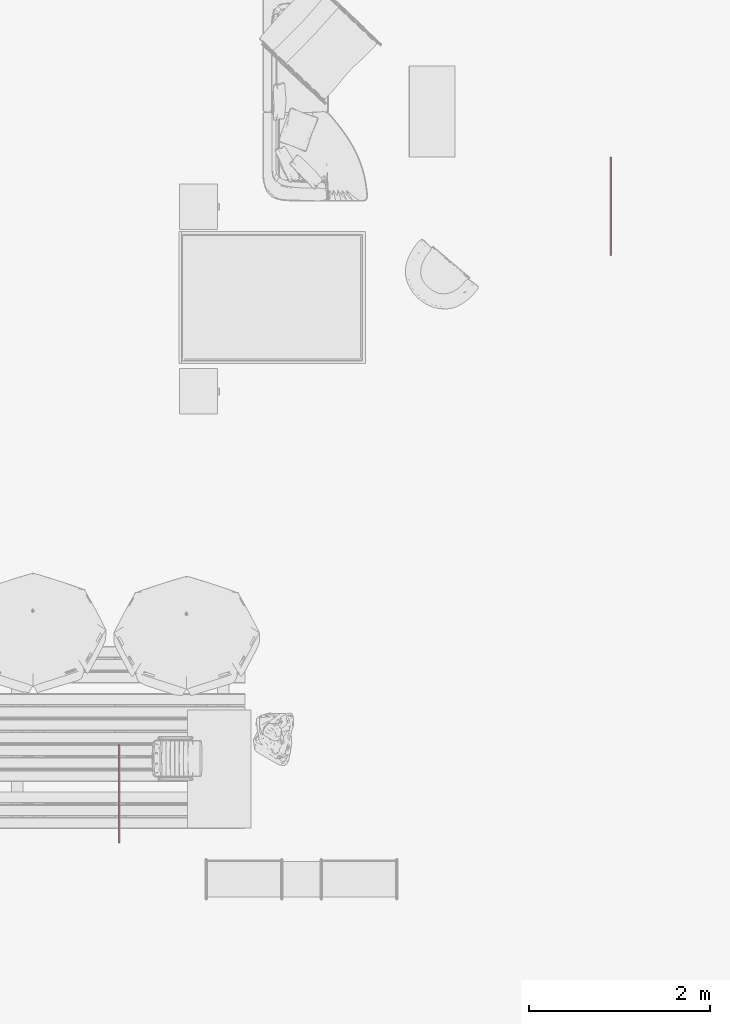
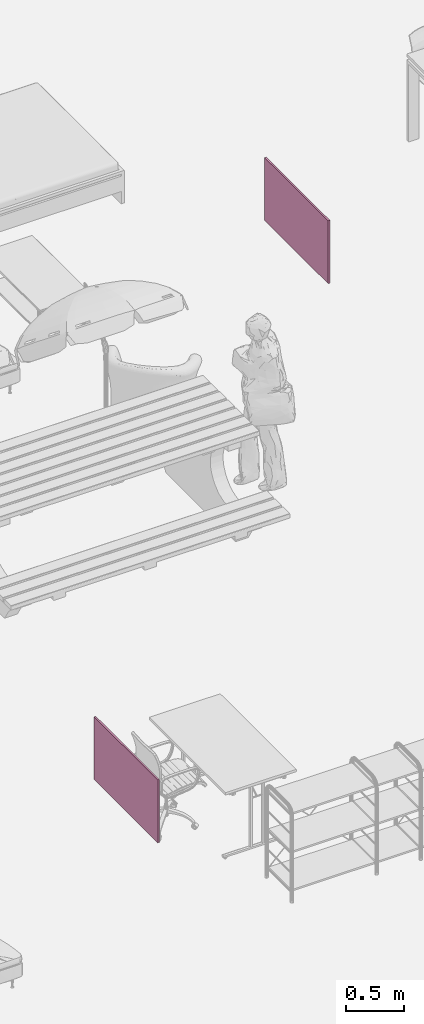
# One storey, part 2 of 4: 2 furniture elements.
"""IFC4 building model written with IfcOpenShell, lengths in metres."""

from ifc_helpers import new_model, entity, si_unit, converted_unit, frame, origin, origin_with_axes, place, context, subcontext, project, spatial, closed_shell, open_shell, surface_model, source, transform, mapped, material, constituent, constituent_set, element, save


model = new_model("IFC4")

# Units and contexts
model_context = context("Model", 3, precision=1e-05, world=origin())
body_context = subcontext(model_context, "Body", "Model", "MODEL_VIEW")
ifc_project = project(units=[si_unit("LENGTHUNIT", "METRE"), si_unit("AREAUNIT", "SQUARE_METRE"), si_unit("VOLUMEUNIT", "CUBIC_METRE"), si_unit("MASSUNIT", "GRAM", prefix="KILO"), converted_unit("PLANEANGLEUNIT", "DEGREE", entity("IfcPlaneAngleMeasure", 0.0174532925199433), si_unit("PLANEANGLEUNIT", "RADIAN"), dimensions=[0, 0, 0, 0, 0, 0, 0])], contexts=[model_context])

# Building, storey
building_placement = place(None, origin())
building = spatial("IfcBuilding", under=ifc_project, at=building_placement, Name="Projet de Construction", CompositionType="ELEMENT")
storey_placement = place(building_placement, frame((0.0, 0.0, -1.15)))
storey = spatial("IfcBuildingStorey", under=building, at=storey_placement, Name="Environnement", CompositionType="ELEMENT", Elevation=-1.15)

# Furniture
ifc_material_1 = material()
ifc_constituent_1 = constituent(ifc_material_1)
ifc_constituent_set_1 = constituent_set(constituents=[ifc_constituent_1])
shared_shape = source(origin_with_axes(), body_context, "Body", "SurfaceModel", [
    surface_model("IfcShellBasedSurfaceModel", [(3.58207357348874e-05, 0.0160081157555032, 0.614403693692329), (3.58207357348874e-05, 0.0160081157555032, 0.585124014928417), (1.08816679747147, 0.0160081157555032, 0.586005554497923), (1.08816679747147, 0.0160081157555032, 0.614514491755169), (1.08774119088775, 0.0160081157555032, 1.24094632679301), (0.0, 0.0160081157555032, 1.24091376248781), (0.0238826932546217, 0.0160081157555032, 1.21703541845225), (1.06388269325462, 0.0160081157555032, 1.2166397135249), (1.0638839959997, 0.0160081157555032, 0.609879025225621), (0.0238839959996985, 0.0160081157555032, 0.610274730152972), (3.58207357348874e-05, 0.0, 0.614403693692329), (0.0, 0.0, 1.24091376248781), (1.08774119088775, 0.0, 1.24094632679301), (1.08816679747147, 0.0, 0.614514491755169), (1.08816679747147, 0.0, 0.586005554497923), (3.58207357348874e-05, 0.0, 0.585124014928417), (0.0238826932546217, 0.0, 1.21703541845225), (0.0238839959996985, 0.0, 0.610274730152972), (1.0638839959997, 0.0, 0.609879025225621), (1.06388269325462, 0.0, 1.2166397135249)], [closed_shell([[[0, 1, 2, 3, 4, 5], [6, 7, 8, 9]], [[10, 11, 12, 13, 14, 15], [16, 17, 18, 19]], [[0, 10, 15, 1]], [[1, 15, 14, 2]], [[2, 14, 13, 3]], [[3, 13, 12, 4]], [[4, 12, 11, 5]], [[5, 11, 10, 0]], [[6, 16, 19, 7]], [[7, 19, 18, 8]], [[8, 18, 17, 9]], [[9, 17, 16, 6]]], orient=[[False, False], [False, False], [False], [False], [False], [False], [False], [False], [False], [False], [False], [False]])]),
    surface_model("IfcShellBasedSurfaceModel", [(1.0638839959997, 0.0160081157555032, 0.609879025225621), (0.0238839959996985, 0.0160081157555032, 0.610274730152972), (0.0238826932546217, 0.0160081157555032, 1.21703541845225), (1.06388269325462, 0.0160081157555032, 1.2166397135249)], [open_shell([[[0, 1, 2, 3]]], orient=[[False]])]),
    surface_model("IfcShellBasedSurfaceModel", [(0.0195213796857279, 0.00455455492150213, 1.22139482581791), (0.0195226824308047, 0.00455455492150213, 0.605915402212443), (1.06824534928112, 0.00455455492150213, 0.605519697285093), (1.06824404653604, 0.00455455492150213, 1.22099912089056), (0.0195226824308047, 0.0019519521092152, 0.605915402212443), (0.0195213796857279, 0.0019519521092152, 1.22139482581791), (1.06824404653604, 0.0019519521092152, 1.22099912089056), (1.06824534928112, 0.0019519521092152, 0.605519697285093)], [closed_shell([[[0, 1, 2, 3]], [[4, 5, 6, 7]], [[1, 0, 5, 4]], [[2, 1, 4, 7]], [[3, 2, 7, 6]], [[0, 3, 6, 5]]], orient=[[False], [False], [False], [False], [False], [False]])]),
])
furniture_1_placement = place(storey_placement, frame((-2.03885982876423, 3.86086467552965, 1.15), z_axis=(0.0, 0.0, 1.0), x_axis=(1.22464679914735e-16, 1.0, 0.0)))
element("IfcFurniture", 1, at=furniture_1_placement, inside=storey, material=ifc_constituent_set_1, Name="TV 48 pouces", context=body_context, shape_type="MappedRepresentation", body=[
    mapped(shared_shape, transform((0.0, 0.0, 0.0), x_axis=(1.0, 0.0, 0.0), y_axis=(0.0, 1.0, 0.0), z_axis=(0.0, 0.0, 1.0), scale=1.0)),
])
ifc_material_2 = material()
ifc_constituent_2 = constituent(ifc_material_2)
ifc_constituent_set_2 = constituent_set(constituents=[ifc_constituent_2])
furniture_2_placement = place(storey_placement, frame((-7.46944613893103, -2.62971363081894, 1.15), z_axis=(0.0, 0.0, 1.0), x_axis=(1.22464679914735e-16, 1.0, 0.0)))
element("IfcFurniture", 2, at=furniture_2_placement, inside=storey, material=ifc_constituent_set_2, Name="TV 48 pouces", context=body_context, shape_type="MappedRepresentation", body=[
    mapped(shared_shape, transform((0.0, 0.0, 0.0), x_axis=(1.0, 0.0, 0.0), y_axis=(0.0, 1.0, 0.0), z_axis=(0.0, 0.0, 1.0), scale=1.0)),
])

save(model, "model.ifc")
